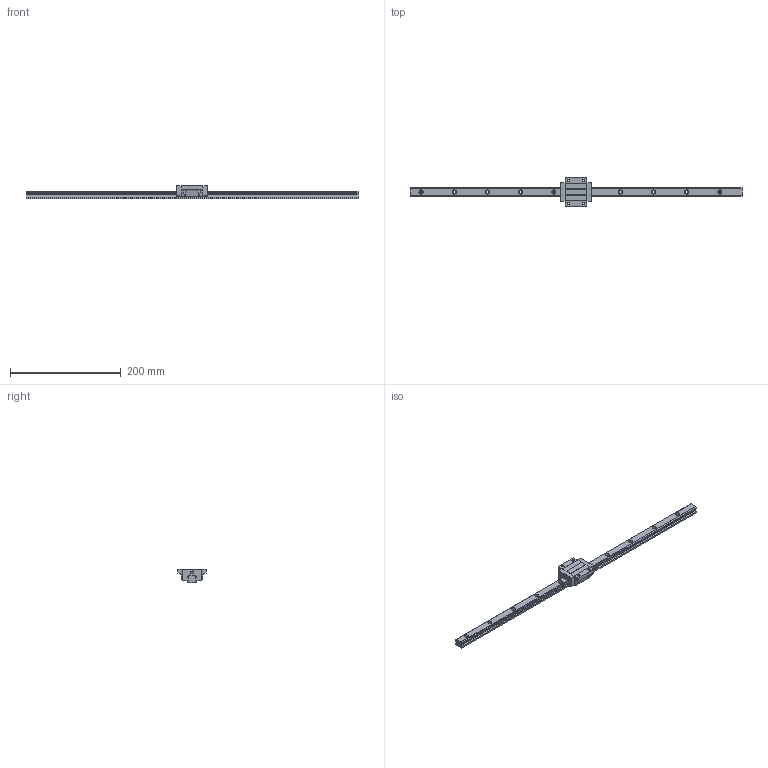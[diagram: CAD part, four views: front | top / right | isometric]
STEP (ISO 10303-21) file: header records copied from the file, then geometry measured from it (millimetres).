
FILE_DESCRIPTION (( 'STEP AP203' ), '1' );
FILE_NAME ('TRS15FN-XNC.STEP', '2024-08-16T07:03:24', ( '' ), ( '' ), 'SwSTEP 2.0', 'SolidWorks 2021', '' );
FILE_SCHEMA (( 'CONFIG_CONTROL_DESIGN' ));
Length unit declared in the file: millimetre
Products named in the file (1): TRS15FN-XNC
Bounding box: 600 x 52 x 24 mm (x, y, z)
Volume: 137722.8 mm3; surface area: 46505.7 mm2
Topology: 1 solids, 1 shells, 207 faces, 570 edges, 370 vertices
Faces by surface type: cylinder 108, plane 95, sphere 4
Entity records: 7052 total; most frequent: CARTESIAN_POINT 1519, DIRECTION 1166, ORIENTED_EDGE 1132, EDGE_CURVE 566, AXIS2_PLACEMENT_3D 414, VERTEX_POINT 370, VECTOR 338, LINE 338
